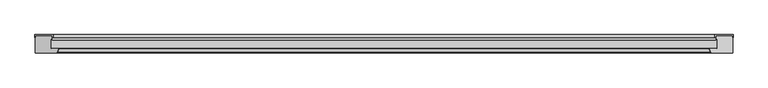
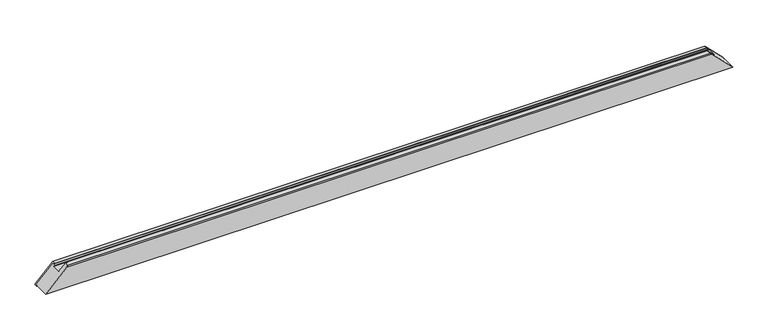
"""IFC4 building model written with IfcOpenShell, lengths in millimetres: proxy geometry, Weiku - Montante - Caixilho 02.2.01.005 : Weiku - Montante - Caixilho 02.2.01.005."""

from ifc_helpers import new_model, si_unit, frame, origin, place, context, project, spatial, ellipse_curve, faceted_brep, source, transform, mapped, element, save
from ifc_brep_helpers import plane_surface, cylinder_surface, advanced_brep


def generic_models_6a9e0e56(model_context):
    return source(origin(), model_context, "Body", "SolidModel", [
        faceted_brep([(-997.0, 43.5137905, 0.0), (-997.0, 50.0, 0.0), (-948.0, 50.0, 49.0), (-948.0, 43.5137905, 49.0), (-946.0, 43.5137905, 51.0), (-946.0, 52.0, 51.0), (-998.0, 52.0, -1.0), (-998.0, 43.5137905, -1.0), (997.0, 50.0, 0.0), (997.0, 43.5137905, 0.0), (998.0, 43.5137905, -1.0), (998.0, 52.0, -1.0), (946.0, 52.0, 51.0), (946.0, 43.5137905, 51.0), (948.0, 43.5137905, 49.0), (948.0, 50.0, 49.0)], [[[0, 1, 2, 3, 4, 5, 6, 7]], [[8, 9, 10, 11, 12, 13, 14, 15]], [[1, 0, 9, 8]], [[2, 1, 8, 15]], [[3, 2, 15, 14]], [[4, 3, 14, 13]], [[5, 4, 13, 12]], [[6, 5, 12, 11]], [[7, 6, 11, 10]], [[0, 7, 10, 9]]]),
        advanced_brep(
        [(-951.0, 12.5, 46.0), (-930.8909676, 12.5, 66.1090324), (930.8909676, 12.5, 66.1090324), (951.0, 12.5, 46.0), (-951.0, 37.8314286, 46.0), (951.0, 37.8314286, 46.0), (-948.0, 37.027581, 49.0), (948.0, 37.027581, 49.0), (-948.0, 50.0, 49.0), (948.0, 50.0, 49.0), (997.0, 50.0, 0.0), (-997.0, 50.0, 0.0), (997.0, 0.0, 0.0), (-997.0, 0.0, 0.0), (935.4997332, 0.0, 61.5002668), (-935.4997332, 0.0, 61.5002668), (-930.118227, 11.4929448, 66.881773), (-932.6019557, 2.2235429, 64.3980443), (932.6019557, 2.2235429, 64.3980443), (930.118227, 11.4929448, 66.881773)],
        [
            (0, 1),
            (1, 2),
            (2, 3),
            (3, 0),
            (4, 0),
            (3, 5),
            (5, 4),
            (6, 4),
            (5, 7),
            (7, 6),
            (8, 6),
            (7, 9),
            (9, 8),
            (10, 11),
            (11, 8),
            (9, 10),
            (10, 12),
            (12, 13),
            (13, 11),
            (12, 14),
            (14, 15),
            (15, 13),
            (16, 17),
            (17, 18),
            (18, 19),
            (19, 16),
            (15, 17, ellipse_curve(frame((-935.4997332, 3.0, 61.5002668), z_axis=(-0.7071067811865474, 0.0, 0.7071067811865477), x_axis=(-0.7071067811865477, 0.0, -0.7071067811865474)), 4.2426407, 3.0)),
            (16, 1, ellipse_curve(frame((-930.8909676, 11.7, 66.1090324), z_axis=(-0.7071067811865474, 0.0, 0.7071067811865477), x_axis=(-0.7071067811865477, 0.0, -0.7071067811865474)), 1.1313708, 0.8)),
            (2, 19, ellipse_curve(frame((930.8909676, 11.7, 66.1090324), z_axis=(0.7071067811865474, 0.0, 0.7071067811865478), x_axis=(-0.7071067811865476, 0.0, 0.7071067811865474)), 1.1313708, 0.8)),
            (18, 14, ellipse_curve(frame((935.4997332, 3.0, 61.5002668), z_axis=(0.7071067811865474, 0.0, 0.7071067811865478), x_axis=(-0.7071067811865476, 0.0, 0.7071067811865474)), 4.2426407, 3.0)),
        ],
        [
            plane_surface(frame((-997.0, 12.5, 66.1090324), z_axis=(0.0, 1.0, 0.0), x_axis=(1.0, 0.0, 0.0))),
            plane_surface(frame((-997.0, 12.5, 46.0), z_axis=(0.0, 0.0, 1.0), x_axis=(1.0, 0.0, 0.0))),
            plane_surface(frame((-997.0, 37.8314286, 46.0), z_axis=(0.0, -0.9659258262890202, -0.2588190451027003), x_axis=(1.0, 0.0, 0.0))),
            plane_surface(frame((-997.0, 37.027581, 49.0), z_axis=(0.0, 0.0, 1.0), x_axis=(1.0, 0.0, 0.0))),
            plane_surface(frame((-997.0, 50.0, 49.0), z_axis=(0.0, 1.0, 0.0), x_axis=(1.0, 0.0, 0.0))),
            plane_surface(frame((-997.0, 50.0, 0.0), z_axis=(0.0, 0.0, -1.0), x_axis=(1.0, 0.0, 0.0))),
            plane_surface(frame((-997.0, 0.0, 0.0), z_axis=(0.0, -1.0, 0.0), x_axis=(1.0, 0.0, 0.0))),
            plane_surface(frame((-997.0, 2.2235429, 64.3980443), z_axis=(0.0, -0.2588190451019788, 0.9659258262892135), x_axis=(1.0, 0.0, 0.0))),
            plane_surface(frame((-1067.0, -15.0, -70.0), z_axis=(-0.7071067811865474, 0.0, 0.7071067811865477), x_axis=(0.0, 1.0, 0.0))),
            plane_surface(frame((927.0, -15.0, 70.0), z_axis=(0.7071067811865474, 0.0, 0.7071067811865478), x_axis=(0.0, 1.0, 0.0))),
            cylinder_surface(frame((-997.0, 11.7, 66.1090324), z_axis=(-1.0, 0.0, 0.0), x_axis=(0.0, 1.0, 0.0)), 0.8),
            cylinder_surface(frame((-997.0, 3.0, 61.5002668), z_axis=(-1.0, 0.0, 0.0), x_axis=(0.0, 1.0, 0.0)), 3.0),
        ],
        [
            (0, [[1, 2, 3, 4]]),
            (1, [[5, -4, 6, 7]]),
            (2, [[8, -7, 9, 10]]),
            (3, [[11, -10, 12, 13]]),
            (4, [[14, 15, -13, 16]]),
            (5, [[-14, 17, 18, 19]]),
            (6, [[-18, 20, 21, 22]]),
            (7, [[23, 24, 25, 26]]),
            (8, [[-1, -5, -8, -11, -15, -19, -22, 27, -23, 28]]),
            (9, [[-3, 29, -25, 30, -20, -17, -16, -12, -9, -6]]),
            (10, [[-28, -26, -29, -2]]),
            (11, [[-27, -21, -30, -24]]),
        ],
    ),
    ])


if __name__ == "__main__":
    model = new_model("IFC4")
    model_context = context("Model", 3, world=origin())
    ifc_project = project(units=[si_unit("LENGTHUNIT", "METRE", prefix="MILLI")], contexts=[model_context])
    site = spatial("IfcSite", under=ifc_project)
    building = spatial("IfcBuilding", under=site)
    placement = place(None, origin())
    generic_models_shape = generic_models_6a9e0e56(model_context)
    element("IfcBuildingElementProxy", 1, Name="Weiku - Montante - Caixilho 02.2.01.005 : Weiku - Montante - Caixilho 02.2.01.005", ObjectType="Weiku - Montante - Caixilho 02.2.01.005 : Weiku - Montante - Caixilho 02.2.01.005", at=placement, inside=building, context=model_context, shape_type="MappedRepresentation", body=[
        mapped(generic_models_shape, transform((0.0, 0.0, 0.0), x_axis=(1.0, 0.0, 0.0), y_axis=(0.0, 1.0, 0.0), z_axis=(0.0, 0.0, 1.0))),
    ])
    save(model, "model.ifc")
